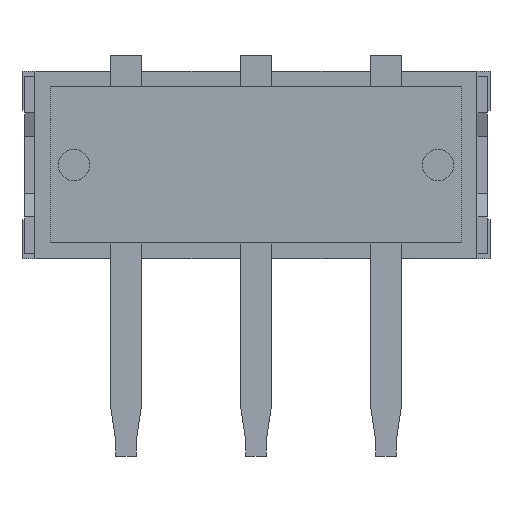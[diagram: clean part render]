
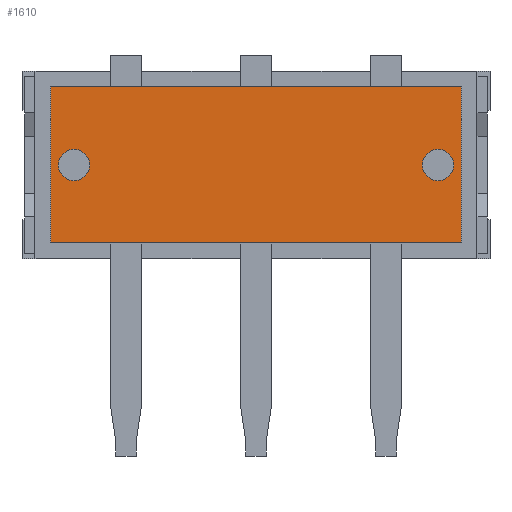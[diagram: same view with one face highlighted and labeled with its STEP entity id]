
A CAD part, front view. The second image highlights one B-rep face of the part: STEP entity #1610.
In plain terms, the highlighted planar face has unit normal (0, -1, 0).
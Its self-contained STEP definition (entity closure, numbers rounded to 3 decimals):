
#294=DIRECTION('',(1.,0.,0.));
#295=VECTOR('',#294,7.9);
#296=CARTESIAN_POINT('',(-3.95,-1.8,-1.5));
#297=LINE('',#296,#295);
#298=DIRECTION('',(0.,0.,-1.));
#299=VECTOR('',#298,3.);
#300=CARTESIAN_POINT('',(-3.95,-1.8,1.5));
#301=LINE('',#300,#299);
#302=DIRECTION('',(-1.,0.,0.));
#303=VECTOR('',#302,7.9);
#304=CARTESIAN_POINT('',(3.95,-1.8,1.5));
#305=LINE('',#304,#303);
#306=DIRECTION('',(0.,0.,1.));
#307=VECTOR('',#306,3.);
#308=CARTESIAN_POINT('',(3.95,-1.8,-1.5));
#309=LINE('',#308,#307);
#310=CARTESIAN_POINT('',(-3.5,-1.8,0.));
#311=DIRECTION('',(0.,-1.,0.));
#312=DIRECTION('',(1.,0.,0.));
#313=AXIS2_PLACEMENT_3D('',#310,#311,#312);
#315=CARTESIAN_POINT('',(-3.5,-1.8,0.));
#316=DIRECTION('',(0.,-1.,0.));
#317=DIRECTION('',(-1.,0.,0.));
#318=AXIS2_PLACEMENT_3D('',#315,#316,#317);
#320=CARTESIAN_POINT('',(3.5,-1.8,0.));
#321=DIRECTION('',(0.,-1.,0.));
#322=DIRECTION('',(1.,0.,0.));
#323=AXIS2_PLACEMENT_3D('',#320,#321,#322);
#325=CARTESIAN_POINT('',(3.5,-1.8,0.));
#326=DIRECTION('',(0.,-1.,0.));
#327=DIRECTION('',(-1.,0.,0.));
#328=AXIS2_PLACEMENT_3D('',#325,#326,#327);
#1010=CARTESIAN_POINT('',(-3.95,-1.8,-1.5));
#1011=CARTESIAN_POINT('',(3.95,-1.8,-1.5));
#1012=VERTEX_POINT('',#1010);
#1013=VERTEX_POINT('',#1011);
#1014=CARTESIAN_POINT('',(3.95,-1.8,1.5));
#1015=VERTEX_POINT('',#1014);
#1016=CARTESIAN_POINT('',(-3.95,-1.8,1.5));
#1017=VERTEX_POINT('',#1016);
#1034=CARTESIAN_POINT('',(-3.2,-1.8,0.));
#1035=CARTESIAN_POINT('',(-3.8,-1.8,0.));
#1036=VERTEX_POINT('',#1034);
#1037=VERTEX_POINT('',#1035);
#1038=CARTESIAN_POINT('',(3.8,-1.8,0.));
#1039=CARTESIAN_POINT('',(3.2,-1.8,0.));
#1040=VERTEX_POINT('',#1038);
#1041=VERTEX_POINT('',#1039);
#1587=CARTESIAN_POINT('',(0.,-1.8,-1.8));
#1588=DIRECTION('',(0.,-1.,0.));
#1589=DIRECTION('',(1.,0.,0.));
#1590=AXIS2_PLACEMENT_3D('',#1587,#1588,#1589);
#1591=PLANE('',#1590);
#1592=ORIENTED_EDGE('',*,*,#1501,.F.);
#1593=ORIENTED_EDGE('',*,*,#1535,.F.);
#1594=ORIENTED_EDGE('',*,*,#1549,.F.);
#1595=ORIENTED_EDGE('',*,*,#1581,.F.);
#1596=EDGE_LOOP('',(#1592,#1593,#1594,#1595));
#1597=FACE_OUTER_BOUND('',#1596,.F.);
#1599=ORIENTED_EDGE('',*,*,#1598,.T.);
#1601=ORIENTED_EDGE('',*,*,#1600,.T.);
#1602=EDGE_LOOP('',(#1599,#1601));
#1603=FACE_BOUND('',#1602,.F.);
#1605=ORIENTED_EDGE('',*,*,#1604,.T.);
#1607=ORIENTED_EDGE('',*,*,#1606,.T.);
#1608=EDGE_LOOP('',(#1605,#1607));
#1609=FACE_BOUND('',#1608,.F.);
#314=CIRCLE('',#313,0.3);
#319=CIRCLE('',#318,0.3);
#324=CIRCLE('',#323,0.3);
#329=CIRCLE('',#328,0.3);
#1501=EDGE_CURVE('',#1012,#1013,#297,.T.);
#1535=EDGE_CURVE('',#1017,#1012,#301,.T.);
#1549=EDGE_CURVE('',#1015,#1017,#305,.T.);
#1581=EDGE_CURVE('',#1013,#1015,#309,.T.);
#1598=EDGE_CURVE('',#1036,#1037,#314,.T.);
#1600=EDGE_CURVE('',#1037,#1036,#319,.T.);
#1604=EDGE_CURVE('',#1040,#1041,#324,.T.);
#1606=EDGE_CURVE('',#1041,#1040,#329,.T.);
#1610=ADVANCED_FACE('',(#1597,#1603,#1609),#1591,.T.);
